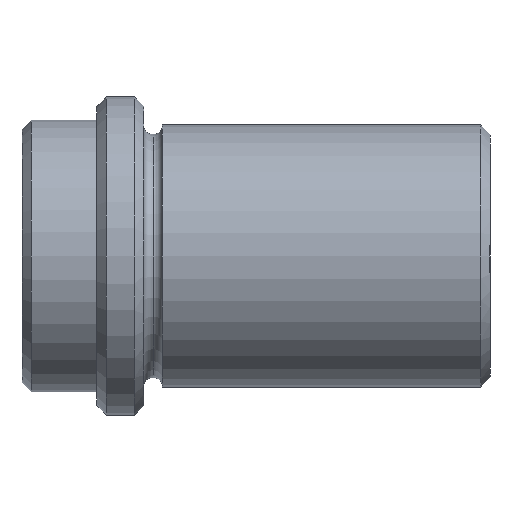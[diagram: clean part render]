
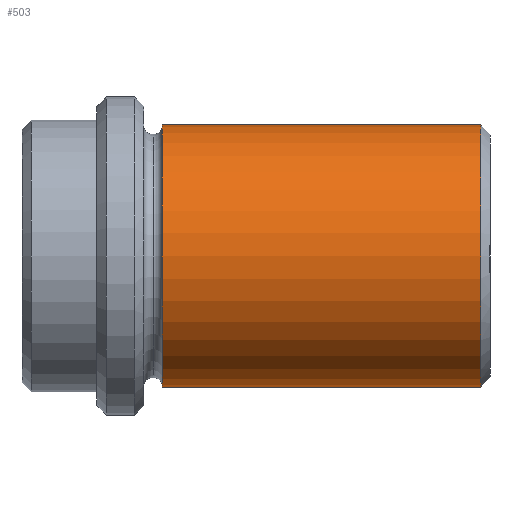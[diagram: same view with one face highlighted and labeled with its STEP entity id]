
A CAD part, left-side view. The second image highlights one B-rep face of the part: STEP entity #503.
In plain terms, the highlighted cylindrical face has radius 14 mm (diameter 28 mm), a partial arc.
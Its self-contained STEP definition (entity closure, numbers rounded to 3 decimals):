
#315=CARTESIAN_POINT('Vertex',(0.,1.,14.)) ;
#322=CARTESIAN_POINT('Vertex',(0.,1.,-14.)) ;
#351=CARTESIAN_POINT('Axis2P3D Location',(0.,1.,0.)) ;
#355=CARTESIAN_POINT('Vertex',(-14.,1.,0.)) ;
#358=CARTESIAN_POINT('Axis2P3D Location',(0.,1.,0.)) ;
#443=CARTESIAN_POINT('Line Origine',(0.,0.,-14.)) ;
#447=CARTESIAN_POINT('Vertex',(0.,35.,-14.)) ;
#461=CARTESIAN_POINT('Vertex',(0.,35.,14.)) ;
#464=CARTESIAN_POINT('Line Origine',(0.,0.,14.)) ;
#478=CARTESIAN_POINT('Axis2P3D Location',(0.,0.,0.)) ;
#483=CARTESIAN_POINT('Axis2P3D Location',(0.,35.,0.)) ;
#487=CARTESIAN_POINT('Vertex',(-14.,35.,0.)) ;
#490=CARTESIAN_POINT('Axis2P3D Location',(0.,35.,0.)) ;
#352=DIRECTION('Axis2P3D Direction',(-0.,1.,0.)) ;
#359=DIRECTION('Axis2P3D Direction',(-0.,1.,0.)) ;
#444=DIRECTION('Vector Direction',(0.,1.,0.)) ;
#465=DIRECTION('Vector Direction',(0.,1.,0.)) ;
#479=DIRECTION('Axis2P3D Direction',(0.,1.,0.)) ;
#480=DIRECTION('Axis2P3D XDirection',(0.,0.,-1.)) ;
#484=DIRECTION('Axis2P3D Direction',(0.,1.,0.)) ;
#491=DIRECTION('Axis2P3D Direction',(0.,1.,0.)) ;
#353=AXIS2_PLACEMENT_3D('Circle Axis2P3D',#351,#352,$) ;
#360=AXIS2_PLACEMENT_3D('Circle Axis2P3D',#358,#359,$) ;
#481=AXIS2_PLACEMENT_3D('Cylinder Axis2P3D',#478,#479,#480) ;
#485=AXIS2_PLACEMENT_3D('Circle Axis2P3D',#483,#484,$) ;
#492=AXIS2_PLACEMENT_3D('Circle Axis2P3D',#490,#491,$) ;
#496=ORIENTED_EDGE('',*,*,#468,.T.) ;
#497=ORIENTED_EDGE('',*,*,#489,.T.) ;
#498=ORIENTED_EDGE('',*,*,#494,.T.) ;
#499=ORIENTED_EDGE('',*,*,#449,.T.) ;
#500=ORIENTED_EDGE('',*,*,#362,.F.) ;
#501=ORIENTED_EDGE('',*,*,#357,.F.) ;
#445=VECTOR('Line Direction',#444,1.) ;
#466=VECTOR('Line Direction',#465,1.) ;
#503=ADVANCED_FACE('CF 439 18x50',(#502),#482,.T.) ;
#354=CIRCLE('generated circle',#353,14.) ;
#361=CIRCLE('generated circle',#360,14.) ;
#486=CIRCLE('generated circle',#485,14.) ;
#493=CIRCLE('generated circle',#492,14.) ;
#482=CYLINDRICAL_SURFACE('generated cylinder',#481,14.) ;
#357=EDGE_CURVE('',#316,#356,#354,.F.) ;
#362=EDGE_CURVE('',#356,#323,#361,.F.) ;
#449=EDGE_CURVE('',#448,#323,#446,.F.) ;
#468=EDGE_CURVE('',#316,#462,#467,.T.) ;
#489=EDGE_CURVE('',#462,#488,#486,.F.) ;
#494=EDGE_CURVE('',#488,#448,#493,.F.) ;
#495=EDGE_LOOP('',(#496,#497,#498,#499,#500,#501)) ;
#502=FACE_OUTER_BOUND('',#495,.T.) ;
#446=LINE('Line',#443,#445) ;
#467=LINE('Line',#464,#466) ;
#316=VERTEX_POINT('',#315) ;
#323=VERTEX_POINT('',#322) ;
#356=VERTEX_POINT('',#355) ;
#448=VERTEX_POINT('',#447) ;
#462=VERTEX_POINT('',#461) ;
#488=VERTEX_POINT('',#487) ;
